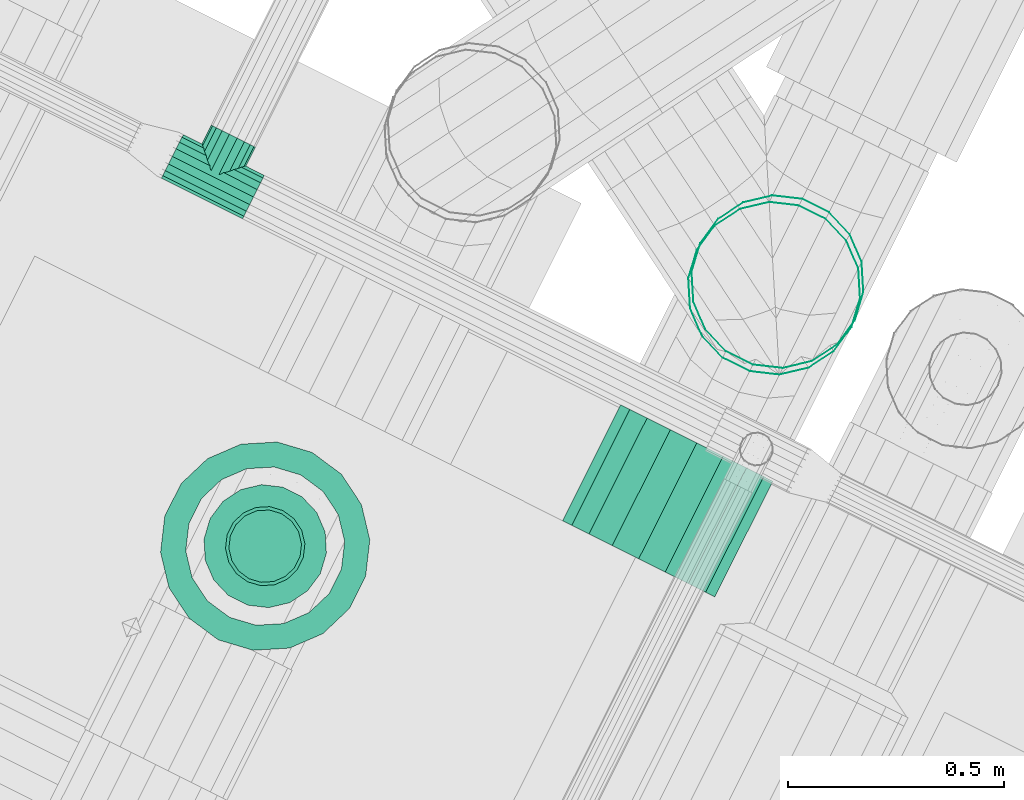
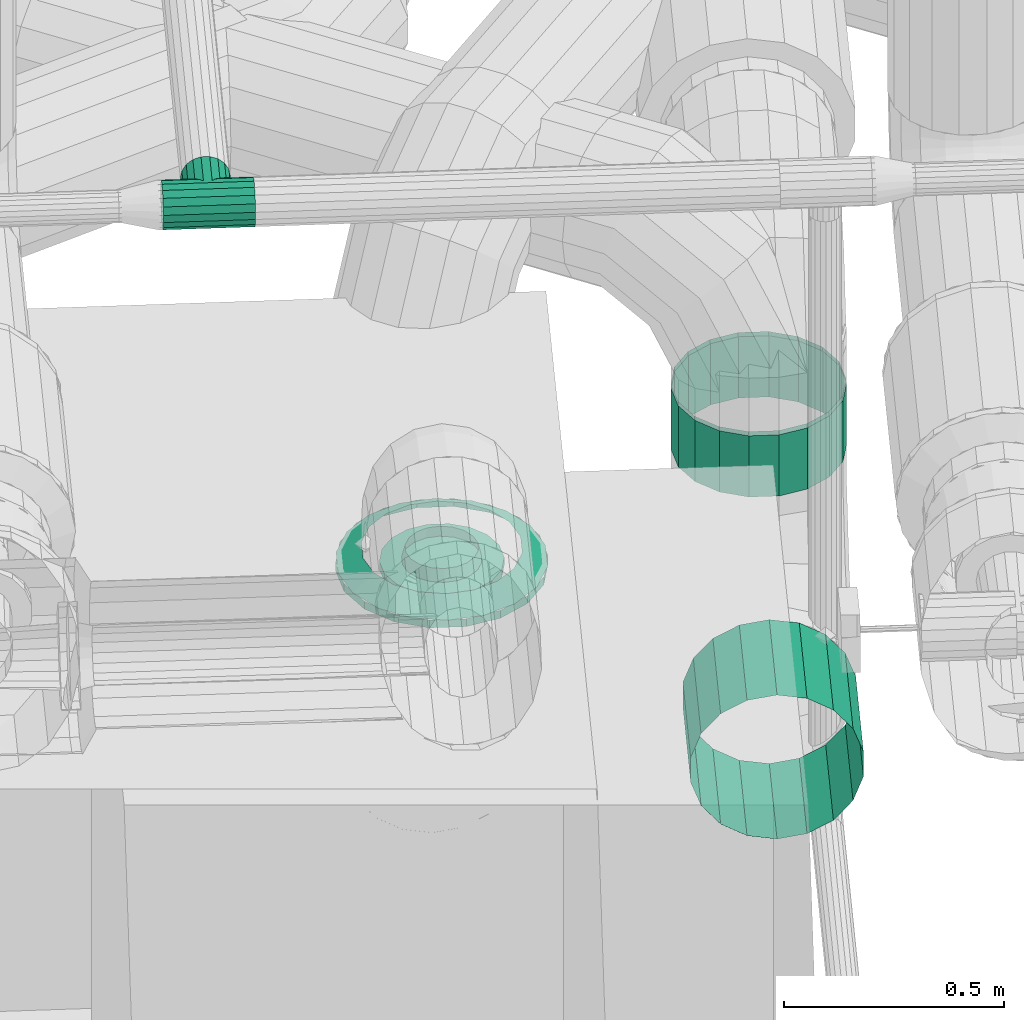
# One storey, part 129 of 206: 4 flow segments, 2 flow fittings.
"""IFC2X3 building model written with IfcOpenShell, lengths in metres."""

import ifcopenshell
import ifcopenshell.guid

model = None  # the IFC model being written
_history = None  # IfcOwnerHistory: only IFC2X3 demands one
_inside = {}  # id of a spatial element -> (the spatial element, [elements in it])
_under = {}  # id of a project, library or spatial element -> (it, [spatial elements below it])
_declared = {}  # id of a project -> (the project, [libraries it declares])
_typed = {}  # id of a type object -> (the type object, [elements of that type])
_made_of = {}  # id of a material, layer set ... -> (it, [elements and type objects made of it])


def new_model(schema):
    """Start an empty IFC model of exactly this schema.

    Asked for "IFC4X3", IfcOpenShell would pick the latest addendum, in which some entities
    have other attributes; the version numbers below select the first issue.
    IFC2X3 requires an IfcOwnerHistory on every rooted entity: one is made here for all.
    """
    global model, _history
    if schema == "IFC4X3":
        model = ifcopenshell.file(schema_version=(4, 3, 0, 0))
    else:
        model = ifcopenshell.file(schema=schema)
    _inside.clear()
    _under.clear()
    _declared.clear()
    _typed.clear()
    _made_of.clear()
    _history = None
    if model.schema == "IFC2X3":
        org = make("IfcOrganization", Name="unknown")
        user = make(
            "IfcPersonAndOrganization",
            ThePerson=make("IfcPerson", FamilyName="unknown"),
            TheOrganization=org,
        )
        app = make(
            "IfcApplication",
            ApplicationDeveloper=org,
            Version="unknown",
            ApplicationFullName="unknown",
            ApplicationIdentifier="unknown",
        )
        _history = make(
            "IfcOwnerHistory",
            OwningUser=user,
            OwningApplication=app,
            ChangeAction="ADDED",
            CreationDate=0,
        )
    return model


def make(cls, **values):
    """One entity of the class cls with the attributes given. An attribute that is None is left unset."""
    return model.create_entity(
        cls, **{name: value for name, value in values.items() if value is not None}
    )


def rooted(cls, **values):
    """An entity with a GlobalId (a new one), such as an element, a storey or a relation."""
    return make(cls, GlobalId=ifcopenshell.guid.new(), OwnerHistory=_history, **values)


def si_unit(unit_type, name, prefix=None):
    """IfcSIUnit, for example si_unit("LENGTHUNIT", "METRE", prefix="MILLI")."""
    return make("IfcSIUnit", UnitType=unit_type, Prefix=prefix, Name=name)


def derived_unit(unit_type, elements):
    """IfcDerivedUnit: a product of units, each with its exponent."""
    return make(
        "IfcDerivedUnit",
        Elements=[
            make("IfcDerivedUnitElement", Unit=unit, Exponent=power)
            for unit, power in elements
        ],
        UnitType=unit_type,
    )


def assignment(units):
    """IfcUnitAssignment: the units of a project."""
    return None if units is None else make("IfcUnitAssignment", Units=units)


def point(xyz):
    """IfcCartesianPoint."""
    return None if xyz is None else make("IfcCartesianPoint", Coordinates=xyz)


def direction(xyz):
    """IfcDirection."""
    return None if xyz is None else make("IfcDirection", DirectionRatios=xyz)


def frame(location, z_axis=None, x_axis=None):
    """IfcAxis2Placement3D, a coordinate frame: its origin and axes. An axis left out is left unset."""
    return make(
        "IfcAxis2Placement3D",
        Location=point(location),
        Axis=direction(z_axis),
        RefDirection=direction(x_axis),
    )


def origin():
    """The frame at (0, 0, 0) with its axes left unset."""
    return frame((0.0, 0.0, 0.0))


def place(relative_to, where):
    """IfcLocalPlacement: puts the frame where relative to a parent placement (None: the world)."""
    return make(
        "IfcLocalPlacement", PlacementRelTo=relative_to, RelativePlacement=where
    )


def context(
    kind, dimensions, precision=None, world=None, true_north=None, identifier=None
):
    """IfcGeometricRepresentationContext, for example the 3D "Model" context."""
    return make(
        "IfcGeometricRepresentationContext",
        ContextIdentifier=identifier,
        ContextType=kind,
        CoordinateSpaceDimension=dimensions,
        Precision=precision,
        WorldCoordinateSystem=world,
        TrueNorth=true_north,
    )


def subcontext(parent, identifier, kind, view, scale=None):
    """IfcGeometricRepresentationSubContext, for example "Body" below "Model"."""
    return make(
        "IfcGeometricRepresentationSubContext",
        ContextIdentifier=identifier,
        ContextType=kind,
        ParentContext=parent,
        TargetScale=scale,
        TargetView=view,
    )


def project(units=None, contexts=None):
    """IfcProject with its units and contexts."""
    return rooted(
        "IfcProject",
        Name="project",
        RepresentationContexts=contexts,
        UnitsInContext=assignment(units),
    )


def spatial(cls, under=None, at=None, **own):
    """A site, building, storey or space (cls), placed at a placement, below another one or the project."""
    s = rooted(cls, ObjectPlacement=at, **own)
    if under is not None:
        _under.setdefault(under.id(), (under, []))[1].append(s)
    return s


def faces_of(points, faces, orient=None, outer=None):
    """IfcFace entities. A face is a list of loops; a loop is a list of indices into points, from 0.

    orient and outer hold one flag for each loop. By default every Orientation is true, the
    first loop of a face is its IfcFaceOuterBound and the others are IfcFaceBound.
    """
    made = []
    for i, loops in enumerate(faces):
        bounds = []
        for j, loop in enumerate(loops):
            is_outer = j == 0 if outer is None else outer[i][j]
            bounds.append(
                make(
                    "IfcFaceOuterBound" if is_outer else "IfcFaceBound",
                    Bound=make("IfcPolyLoop", Polygon=[points[k] for k in loop]),
                    Orientation=True if orient is None else orient[i][j],
                )
            )
        made.append(make("IfcFace", Bounds=bounds))
    return made


def face_set(faces, orient=None, outer=None):
    """The faces of one IfcConnectedFaceSet. surface_model builds it on its shared points."""
    return ("IfcConnectedFaceSet", faces, orient, outer)


def surface_model(cls, points, shells):
    """IfcFaceBasedSurfaceModel or IfcShellBasedSurfaceModel (cls): surfaces that need not close."""
    shared = [point(p) for p in points]
    made = [make(c, CfsFaces=faces_of(shared, fs, o, b)) for c, fs, o, b in shells]
    if cls == "IfcFaceBasedSurfaceModel":
        return make(cls, FbsmFaces=made)
    return make(cls, SbsmBoundary=made)


def shape(context_of_items, identifier, shape_type, items):
    """IfcShapeRepresentation: the items that make up one representation, for example the "Body"."""
    return make(
        "IfcShapeRepresentation",
        ContextOfItems=context_of_items,
        RepresentationIdentifier=identifier,
        RepresentationType=shape_type,
        Items=items,
    )


def source(mapping_origin, context_of_items, identifier, shape_type, items):
    """IfcRepresentationMap: a shape defined once, which mapped items show again and again."""
    return make(
        "IfcRepresentationMap",
        MappingOrigin=mapping_origin,
        MappedRepresentation=shape(context_of_items, identifier, shape_type, items),
    )


def transform(
    local_origin,
    x_axis=None,
    y_axis=None,
    z_axis=None,
    scale=None,
    scale2=None,
    scale3=None,
    uniform=True,
):
    """IfcCartesianTransformationOperator3D, or its non-uniform kind. x_axis, y_axis, z_axis: its Axis1, 2, 3."""
    if uniform:
        return make(
            "IfcCartesianTransformationOperator3D",
            Axis1=direction(x_axis),
            Axis2=direction(y_axis),
            LocalOrigin=point(local_origin),
            Scale=scale,
            Axis3=direction(z_axis),
        )
    return make(
        "IfcCartesianTransformationOperator3DnonUniform",
        Axis1=direction(x_axis),
        Axis2=direction(y_axis),
        LocalOrigin=point(local_origin),
        Scale=scale,
        Axis3=direction(z_axis),
        Scale2=scale2,
        Scale3=scale3,
    )


def mapped(mapping_source, mapping_target):
    """IfcMappedItem: shows the shape of a source again, moved by a transform."""
    return make(
        "IfcMappedItem", MappingSource=mapping_source, MappingTarget=mapping_target
    )


def material(Name=None, Category=None):
    """IfcMaterial."""
    return make("IfcMaterial", Name=Name, Category=Category)


def made_of(thing, what):
    """Note that an element or type object is made of a material, layer set ...; save() writes the relation."""
    if what is not None:
        _made_of.setdefault(what.id(), (what, []))[1].append(thing)
    return thing


def type_object(cls, material=None, **own):
    """A type object (cls), such as IfcWallType, which elements share."""
    return made_of(rooted(cls, **own), material)


def type_shapes(of_type, sources):
    """Give a type object the sources (RepresentationMaps) that its elements show as mapped items."""
    of_type.RepresentationMaps = sources


def element(
    cls,
    number,
    at=None,
    inside=None,
    cuts=None,
    type_object=None,
    material=None,
    context=None,
    identifier="Body",
    shape_type=None,
    held_by="IfcProductDefinitionShape",
    body=None,
    shapes=None,
    **own,
):
    """One element of the class cls, such as IfcWall. Its Tag is "e" and its number.

    at: its placement. inside: the storey or other place that contains it. cuts: it is an
    opening in that element (IfcRelVoidsElement). A single representation is given by context,
    identifier, shape_type and body (its items); several are given by shapes. held_by: the class
    of the entity that holds the representations. save() writes the other relations.
    """
    e = rooted(cls, Tag="e%d" % number, ObjectPlacement=at, **own)
    if body is not None:
        shapes = [shape(context, identifier, shape_type, body)]
    if shapes is not None:
        e.Representation = make(held_by, Representations=shapes)
    if inside is not None:
        _inside.setdefault(inside.id(), (inside, []))[1].append(e)
    if cuts is not None:
        rooted(
            "IfcRelVoidsElement", RelatingBuildingElement=cuts, RelatedOpeningElement=e
        )
    if type_object is not None:
        _typed.setdefault(type_object.id(), (type_object, []))[1].append(e)
    return made_of(e, material)


def aggregate(whole, parts):
    """IfcRelAggregates: a whole, such as a stair, and the parts it consists of."""
    return rooted("IfcRelAggregates", RelatingObject=whole, RelatedObjects=parts)


def save(model, path):
    """Write the relations noted so far, then the file.

    IfcRelAggregates (storeys below a building ...), IfcRelContainedInSpatialStructure (elements
    in a storey), IfcRelDefinesByType, IfcRelAssociatesMaterial and IfcRelDeclares: one each for
    every whole, place, type object, material and project.
    """
    for whole, parts in _under.values():
        aggregate(whole, parts)
    for where, things in _inside.values():
        rooted(
            "IfcRelContainedInSpatialStructure",
            RelatedElements=things,
            RelatingStructure=where,
        )
    for kind, things in _typed.values():
        rooted("IfcRelDefinesByType", RelatedObjects=things, RelatingType=kind)
    for what, things in _made_of.values():
        rooted("IfcRelAssociatesMaterial", RelatedObjects=things, RelatingMaterial=what)
    for by, libraries in _declared.values():
        rooted("IfcRelDeclares", RelatingContext=by, RelatedDefinitions=libraries)
    model.write(path)


model = new_model("IFC2X3")

# Units and contexts
model_context = context("Model", 3, precision=5.2338327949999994e-05, world=origin(), true_north=direction((0.0, 1.0)))
body_context = subcontext(model_context, "Body", "Model", "MODEL_VIEW")
ifc_project = project(units=[si_unit("LENGTHUNIT", "METRE"), si_unit("AREAUNIT", "SQUARE_METRE"), si_unit("VOLUMEUNIT", "CUBIC_METRE"), si_unit("MASSUNIT", "GRAM", prefix="KILO"), si_unit("PLANEANGLEUNIT", "RADIAN"), derived_unit("THERMALTRANSMITTANCEUNIT", [(si_unit("MASSUNIT", "GRAM", prefix="KILO"), 1), (si_unit("THERMODYNAMICTEMPERATUREUNIT", "KELVIN"), -1), (si_unit("TIMEUNIT", "SECOND"), -3)])], contexts=[model_context])

# Site, building, storey
site_placement = place(None, frame((0.0, 0.0, 0.0), z_axis=(0.0, 0.0, 1.0), x_axis=(0.8939966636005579, -0.4480736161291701, 0.0)))
site = spatial("IfcSite", under=ifc_project, at=site_placement, Name="Default", CompositionType="ELEMENT")
building_placement = place(site_placement, origin())
building = spatial("IfcBuilding", under=site, at=building_placement, CompositionType="ELEMENT")
storey_placement = place(building_placement, origin())
storey = spatial("IfcBuildingStorey", under=building, at=storey_placement, Name="Erdgeschoss", CompositionType="ELEMENT", Elevation=0.0)

# Flow segments
ifc_material_1 = material(Name="IfcSurfaceStyle #251447")
distribution_element_type_1 = type_object("IfcDistributionElementType", material=ifc_material_1)
shared_shape_1 = source(origin(), body_context, "Body", "SurfaceModel", [
    surface_model("IfcFaceBasedSurfaceModel", [(24.96050898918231, 7.728208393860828, 1.4300000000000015), (25.02891301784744, 7.728208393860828, 1.4179385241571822), (25.02891301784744, 8.028208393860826, 1.417938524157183), (24.960508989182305, 8.028208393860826, 1.4300000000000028), (25.08906651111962, 7.728208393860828, 1.3832088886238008), (25.089066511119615, 8.028208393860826, 1.3832088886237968), (25.133714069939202, 7.728208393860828, 1.3299999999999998), (25.13371406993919, 8.028208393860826, 1.329999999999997), (25.157470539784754, 7.728208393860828, 1.2647296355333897), (25.157470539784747, 8.028208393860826, 1.2647296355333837), (25.15747053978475, 7.728208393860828, 1.1952703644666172), (25.157470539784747, 8.028208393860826, 1.1952703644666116), (25.133714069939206, 7.728208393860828, 1.1300000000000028), (25.13371406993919, 8.028208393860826, 1.1299999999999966), (25.089066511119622, 7.728208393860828, 1.0767911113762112), (25.089066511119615, 8.028208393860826, 1.0767911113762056), (25.028913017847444, 7.728208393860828, 1.0420614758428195), (25.02891301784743, 8.028208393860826, 1.0420614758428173), (24.960508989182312, 7.728208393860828, 1.0299999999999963), (24.960508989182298, 8.028208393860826, 1.0299999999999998), (24.892104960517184, 7.728208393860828, 1.0420614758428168), (24.892104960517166, 8.028208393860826, 1.0420614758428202), (24.831951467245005, 7.728208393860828, 1.076791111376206), (24.83195146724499, 8.028208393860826, 1.0767911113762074), (24.787303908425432, 7.728208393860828, 1.129999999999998), (24.787303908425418, 8.028208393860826, 1.1300000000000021), (24.763547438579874, 7.728208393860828, 1.19527036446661), (24.763547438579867, 8.028208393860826, 1.1952703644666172), (24.76354743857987, 7.728208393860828, 1.2647296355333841), (24.763547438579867, 8.028208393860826, 1.2647296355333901), (24.78730390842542, 7.728208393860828, 1.3299999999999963), (24.787303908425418, 8.028208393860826, 1.3300000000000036), (24.831951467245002, 7.728208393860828, 1.383208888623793), (24.83195146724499, 8.028208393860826, 1.3832088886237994), (24.892104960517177, 7.728208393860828, 1.417938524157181), (24.892104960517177, 8.028208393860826, 1.4179385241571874)], [face_set([[[0, 1, 2, 3]], [[1, 4, 5, 2]], [[4, 6, 7, 5]], [[6, 8, 9, 7]], [[8, 10, 11, 9]], [[10, 12, 13, 11]], [[12, 14, 15, 13]], [[14, 16, 17, 15]], [[16, 18, 19, 17]], [[18, 20, 21, 19]], [[20, 22, 23, 21]], [[22, 24, 25, 23]], [[24, 26, 27, 25]], [[26, 28, 29, 27]], [[28, 30, 31, 29]], [[30, 32, 33, 31]], [[32, 34, 35, 33]], [[34, 0, 3, 35]]])]),
])
type_shapes(distribution_element_type_1, [shared_shape_1])
flow_segment_1_placement = place(storey_placement, origin())
element("IfcFlowSegment", 1, at=flow_segment_1_placement, inside=storey, type_object=distribution_element_type_1, material=ifc_material_1, Name="Wickelfalzrohr", ObjectType="Wickelfalzrohr", context=body_context, shape_type="MappedRepresentation", body=[
    mapped(shared_shape_1, transform((0.0, 0.0, 0.0), scale=1.0)),
])
distribution_element_type_2 = type_object("IfcDistributionElementType", Name="Wickelfalzrohr 285008:Wickelfalzrohr 285008", material=ifc_material_1)
shared_shape_2 = source(origin(), body_context, "Body", "SurfaceModel", [
    surface_model("IfcFaceBasedSurfaceModel", [(25.1605089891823, 8.428208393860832, 1.6300000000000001), (25.148447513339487, 8.496612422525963, 1.6300000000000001), (25.148447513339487, 8.496612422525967, 1.7999999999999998), (25.1605089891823, 8.428208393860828, 1.7999999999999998), (25.11371787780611, 8.556765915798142, 1.6300000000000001), (25.1137178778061, 8.556765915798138, 1.7999999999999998), (25.060508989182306, 8.601413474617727, 1.6300000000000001), (25.060508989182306, 8.60141347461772, 1.7999999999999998), (24.995238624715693, 8.62516994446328, 1.6300000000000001), (24.99523862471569, 8.625169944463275, 1.7999999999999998), (24.92577935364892, 8.625169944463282, 1.6300000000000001), (24.92577935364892, 8.625169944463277, 1.7999999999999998), (24.860508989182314, 8.601413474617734, 1.6300000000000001), (24.860508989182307, 8.601413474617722, 1.7999999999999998), (24.807300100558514, 8.556765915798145, 1.6300000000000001), (24.80730010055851, 8.55676591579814, 1.7999999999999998), (24.772570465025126, 8.496612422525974, 1.6300000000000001), (24.772570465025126, 8.496612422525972, 1.7999999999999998), (24.760508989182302, 8.428208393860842, 1.6300000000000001), (24.76050898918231, 8.428208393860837, 1.7999999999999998), (24.77257046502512, 8.35980436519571, 1.6300000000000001), (24.772570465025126, 8.359804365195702, 1.7999999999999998), (24.807300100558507, 8.299650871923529, 1.6300000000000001), (24.807300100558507, 8.299650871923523, 1.7999999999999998), (24.860508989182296, 8.255003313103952, 1.6300000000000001), (24.8605089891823, 8.255003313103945, 1.7999999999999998), (24.925779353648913, 8.231246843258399, 1.6300000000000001), (24.925779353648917, 8.23124684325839, 1.7999999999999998), (24.99523862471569, 8.231246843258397, 1.6300000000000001), (24.995238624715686, 8.23124684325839, 1.7999999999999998), (25.0605089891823, 8.255003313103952, 1.6300000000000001), (25.0605089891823, 8.255003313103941, 1.7999999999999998), (25.113717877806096, 8.299650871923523, 1.6300000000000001), (25.113717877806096, 8.29965087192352, 1.7999999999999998), (25.148447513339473, 8.359804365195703, 1.6300000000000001), (25.14844751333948, 8.3598043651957, 1.7999999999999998)], [face_set([[[0, 1, 2, 3]], [[1, 4, 5, 2]], [[4, 6, 7, 5]], [[6, 8, 9, 7]], [[8, 10, 11, 9]], [[10, 12, 13, 11]], [[12, 14, 15, 13]], [[14, 16, 17, 15]], [[16, 18, 19, 17]], [[18, 20, 21, 19]], [[20, 22, 23, 21]], [[22, 24, 25, 23]], [[24, 26, 27, 25]], [[26, 28, 29, 27]], [[28, 30, 31, 29]], [[30, 32, 33, 31]], [[32, 34, 35, 33]], [[34, 0, 3, 35]]])]),
])
type_shapes(distribution_element_type_2, [shared_shape_2])
flow_segment_2_placement = place(storey_placement, origin())
element("IfcFlowSegment", 2, at=flow_segment_2_placement, inside=storey, type_object=distribution_element_type_2, material=ifc_material_1, Name="Wickelfalzrohr", ObjectType="Wickelfalzrohr", context=body_context, shape_type="MappedRepresentation", body=[
    mapped(shared_shape_2, transform((0.0, 0.0, 0.0), scale=1.0)),
])
distribution_element_type_3 = type_object("IfcDistributionElementType", material=ifc_material_1)
shared_shape_3 = source(origin(), body_context, "Body", "SurfaceModel", [
    surface_model("IfcFaceBasedSurfaceModel", [(24.96050898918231, 7.728208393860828, 1.4300000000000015), (25.02891301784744, 7.728208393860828, 1.4179385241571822), (25.02891301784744, 8.028208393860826, 1.417938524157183), (24.960508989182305, 8.028208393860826, 1.4300000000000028), (25.08906651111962, 7.728208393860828, 1.3832088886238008), (25.089066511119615, 8.028208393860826, 1.3832088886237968), (25.133714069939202, 7.728208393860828, 1.3299999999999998), (25.13371406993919, 8.028208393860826, 1.329999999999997), (25.157470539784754, 7.728208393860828, 1.2647296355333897), (25.157470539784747, 8.028208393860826, 1.2647296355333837), (25.15747053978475, 7.728208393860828, 1.1952703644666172), (25.157470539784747, 8.028208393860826, 1.1952703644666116), (25.133714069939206, 7.728208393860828, 1.1300000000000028), (25.13371406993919, 8.028208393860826, 1.1299999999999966), (25.089066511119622, 7.728208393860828, 1.0767911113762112), (25.089066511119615, 8.028208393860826, 1.0767911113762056), (25.028913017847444, 7.728208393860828, 1.0420614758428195), (25.02891301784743, 8.028208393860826, 1.0420614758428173), (24.960508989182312, 7.728208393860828, 1.0299999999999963), (24.960508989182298, 8.028208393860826, 1.0299999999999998), (24.892104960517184, 7.728208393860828, 1.0420614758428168), (24.892104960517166, 8.028208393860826, 1.0420614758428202), (24.831951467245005, 7.728208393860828, 1.076791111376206), (24.83195146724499, 8.028208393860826, 1.0767911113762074), (24.787303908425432, 7.728208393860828, 1.129999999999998), (24.787303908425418, 8.028208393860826, 1.1300000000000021), (24.763547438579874, 7.728208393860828, 1.19527036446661), (24.763547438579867, 8.028208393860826, 1.1952703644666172), (24.76354743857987, 7.728208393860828, 1.2647296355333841), (24.763547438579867, 8.028208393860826, 1.2647296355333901), (24.78730390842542, 7.728208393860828, 1.3299999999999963), (24.787303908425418, 8.028208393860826, 1.3300000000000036), (24.831951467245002, 7.728208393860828, 1.383208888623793), (24.83195146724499, 8.028208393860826, 1.3832088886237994), (24.892104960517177, 7.728208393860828, 1.417938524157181), (24.892104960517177, 8.028208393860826, 1.4179385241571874)], [face_set([[[0, 1, 2, 3]], [[1, 4, 5, 2]], [[4, 6, 7, 5]], [[6, 8, 9, 7]], [[8, 10, 11, 9]], [[10, 12, 13, 11]], [[12, 14, 15, 13]], [[14, 16, 17, 15]], [[16, 18, 19, 17]], [[18, 20, 21, 19]], [[20, 22, 23, 21]], [[22, 24, 25, 23]], [[24, 26, 27, 25]], [[26, 28, 29, 27]], [[28, 30, 31, 29]], [[30, 32, 33, 31]], [[32, 34, 35, 33]], [[34, 0, 3, 35]]])]),
])
type_shapes(distribution_element_type_3, [shared_shape_3])
flow_segment_3_placement = place(storey_placement, origin())
element("IfcFlowSegment", 3, at=flow_segment_3_placement, inside=storey, type_object=distribution_element_type_3, material=ifc_material_1, Name="Wickelfalzrohr", ObjectType="Wickelfalzrohr", context=body_context, shape_type="MappedRepresentation", body=[
    mapped(shared_shape_3, transform((0.0, 0.0, 0.0), scale=1.0)),
])
distribution_element_type_4 = type_object("IfcDistributionElementType", Name="Wickelfalzrohr 295334:Wickelfalzrohr 295334", material=ifc_material_1)
shared_shape_4 = source(origin(), body_context, "Body", "SurfaceModel", [
    surface_model("IfcFaceBasedSurfaceModel", [(25.1605089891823, 8.445275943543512, 1.6300000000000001), (25.148447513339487, 8.513679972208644, 1.6300000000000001), (25.148447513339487, 8.513679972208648, 1.7999999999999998), (25.1605089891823, 8.445275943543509, 1.7999999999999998), (25.11371787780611, 8.573833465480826, 1.6300000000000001), (25.1137178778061, 8.57383346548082, 1.7999999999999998), (25.060508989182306, 8.618481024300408, 1.6300000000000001), (25.060508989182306, 8.618481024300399, 1.7999999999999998), (24.995238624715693, 8.642237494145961, 1.6300000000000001), (24.99523862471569, 8.642237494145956, 1.7999999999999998), (24.92577935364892, 8.642237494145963, 1.6300000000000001), (24.92577935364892, 8.642237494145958, 1.7999999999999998), (24.860508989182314, 8.618481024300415, 1.6300000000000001), (24.860508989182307, 8.618481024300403, 1.7999999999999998), (24.807300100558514, 8.573833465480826, 1.6300000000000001), (24.80730010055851, 8.57383346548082, 1.7999999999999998), (24.772570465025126, 8.513679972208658, 1.6300000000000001), (24.772570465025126, 8.513679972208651, 1.7999999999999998), (24.760508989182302, 8.445275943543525, 1.6300000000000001), (24.76050898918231, 8.445275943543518, 1.7999999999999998), (24.77257046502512, 8.376871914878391, 1.6300000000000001), (24.772570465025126, 8.376871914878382, 1.7999999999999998), (24.807300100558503, 8.316718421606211, 1.6300000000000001), (24.807300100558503, 8.31671842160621, 1.7999999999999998), (24.8605089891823, 8.272070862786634, 1.6300000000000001), (24.860508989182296, 8.272070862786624, 1.7999999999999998), (24.925779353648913, 8.248314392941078, 1.6300000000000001), (24.925779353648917, 8.248314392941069, 1.7999999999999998), (24.99523862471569, 8.248314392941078, 1.6300000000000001), (24.995238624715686, 8.24831439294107, 1.7999999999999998), (25.0605089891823, 8.272070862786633, 1.6300000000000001), (25.0605089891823, 8.272070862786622, 1.7999999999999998), (25.113717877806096, 8.316718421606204, 1.6300000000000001), (25.113717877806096, 8.3167184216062, 1.7999999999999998), (25.148447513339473, 8.376871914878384, 1.6300000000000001), (25.14844751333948, 8.37687191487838, 1.7999999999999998)], [face_set([[[0, 1, 2, 3]], [[1, 4, 5, 2]], [[4, 6, 7, 5]], [[6, 8, 9, 7]], [[8, 10, 11, 9]], [[10, 12, 13, 11]], [[12, 14, 15, 13]], [[14, 16, 17, 15]], [[16, 18, 19, 17]], [[18, 20, 21, 19]], [[20, 22, 23, 21]], [[22, 24, 25, 23]], [[24, 26, 27, 25]], [[26, 28, 29, 27]], [[28, 30, 31, 29]], [[30, 32, 33, 31]], [[32, 34, 35, 33]], [[34, 0, 3, 35]]])]),
])
type_shapes(distribution_element_type_4, [shared_shape_4])
flow_segment_4_placement = place(storey_placement, origin())
element("IfcFlowSegment", 4, at=flow_segment_4_placement, inside=storey, type_object=distribution_element_type_4, material=ifc_material_1, Name="Wickelfalzrohr", ObjectType="Wickelfalzrohr", context=body_context, shape_type="MappedRepresentation", body=[
    mapped(shared_shape_4, transform((0.0, 0.0, 0.0), scale=1.0)),
])

# Flow fittings
ifc_material_2 = material(Name="IfcSurfaceStyle #9317")
distribution_element_type_5 = type_object("IfcDistributionElementType", material=ifc_material_2)
shared_shape_5 = source(origin(), body_context, "Body", "SurfaceModel", [
    surface_model("IfcFaceBasedSurfaceModel", [(24.032321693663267, 7.367307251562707, 2.07), (24.040915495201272, 7.3185693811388, 2.07), (24.040915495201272, 7.3185693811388, 2.0919999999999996), (24.032321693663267, 7.367307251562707, 2.0919999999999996), (24.065660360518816, 7.275710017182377, 2.07), (24.065660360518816, 7.275710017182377, 2.0919999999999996), (24.103571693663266, 7.243898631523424, 2.07), (24.103571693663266, 7.243898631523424, 2.0919999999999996), (24.15007682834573, 7.226972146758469, 2.07), (24.15007682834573, 7.226972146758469, 2.0919999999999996), (24.199566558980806, 7.226972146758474, 2.07), (24.199566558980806, 7.226972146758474, 2.0919999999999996), (24.246071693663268, 7.243898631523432, 2.07), (24.246071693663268, 7.243898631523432, 2.0919999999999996), (24.283983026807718, 7.275710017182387, 2.07), (24.283983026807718, 7.275710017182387, 2.0919999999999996), (24.30872789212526, 7.3185693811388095, 2.07), (24.30872789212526, 7.3185693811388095, 2.0919999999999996), (24.317321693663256, 7.36730725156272, 2.07), (24.317321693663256, 7.36730725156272, 2.0919999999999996), (24.30872789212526, 7.4160451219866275, 2.07), (24.30872789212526, 7.4160451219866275, 2.0919999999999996), (24.283983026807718, 7.458904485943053, 2.07), (24.283983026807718, 7.458904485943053, 2.0919999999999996), (24.246071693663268, 7.490715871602, 2.07), (24.246071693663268, 7.490715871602, 2.0919999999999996), (24.199566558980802, 7.507642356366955, 2.07), (24.199566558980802, 7.507642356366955, 2.0919999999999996), (24.15007682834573, 7.507642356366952, 2.07), (24.15007682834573, 7.507642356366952, 2.0919999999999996), (24.103571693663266, 7.490715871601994, 2.07), (24.103571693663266, 7.490715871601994, 2.0919999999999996), (24.065660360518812, 7.458904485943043, 2.07), (24.065660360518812, 7.458904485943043, 2.0919999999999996), (24.04091549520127, 7.416045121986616, 2.07), (24.04091549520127, 7.416045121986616, 2.0919999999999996), (24.17482169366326, 7.367307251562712, 2.091999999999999), (24.17482169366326, 7.275307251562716, 2.0919999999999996), (24.206287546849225, 7.280855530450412, 2.0919999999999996), (24.20360268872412, 7.28823211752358, 2.125), (24.17482169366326, 7.283157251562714, 2.1249999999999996), (24.23395815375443, 7.29683116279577, 2.0919999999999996), (24.228912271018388, 7.302844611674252, 2.125), (24.25449603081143, 7.321307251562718, 2.091999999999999), (24.247697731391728, 7.325232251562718, 2.1249999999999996), (24.265424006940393, 7.351331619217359, 2.0920000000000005), (24.257693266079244, 7.352694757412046, 2.125000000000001), (24.265424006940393, 7.383282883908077, 2.091999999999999), (24.257693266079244, 7.381919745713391, 2.1249999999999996), (24.25449603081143, 7.41330725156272, 2.0919999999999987), (24.247697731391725, 7.409382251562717, 2.124999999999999), (24.23395815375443, 7.437783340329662, 2.0920000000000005), (24.228912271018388, 7.431769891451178, 2.125000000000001), (24.206287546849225, 7.453758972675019, 2.0919999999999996), (24.20360268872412, 7.446382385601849, 2.125), (24.17482169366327, 7.459307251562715, 2.0919999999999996), (24.17482169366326, 7.451457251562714, 2.125), (24.143355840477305, 7.453758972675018, 2.0919999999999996), (24.14604069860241, 7.446382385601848, 2.125), (24.1156852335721, 7.437783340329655, 2.0919999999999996), (24.120731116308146, 7.4317698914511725, 2.125), (24.095147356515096, 7.41330725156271, 2.0919999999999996), (24.101945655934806, 7.409382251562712, 2.125), (24.084219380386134, 7.383282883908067, 2.091999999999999), (24.091950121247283, 7.3819197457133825, 2.1249999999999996), (24.084219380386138, 7.351331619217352, 2.091999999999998), (24.091950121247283, 7.3526947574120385, 2.1249999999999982), (24.095147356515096, 7.3213072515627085, 2.0919999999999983), (24.101945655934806, 7.325232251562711, 2.1249999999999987), (24.1156852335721, 7.2968311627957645, 2.0919999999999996), (24.120731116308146, 7.302844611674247, 2.125), (24.143355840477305, 7.280855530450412, 2.091999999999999), (24.146040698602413, 7.288232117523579, 2.1249999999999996), (23.932321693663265, 7.3673072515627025, 2.07), (23.94694623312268, 7.284367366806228, 2.07), (23.94694623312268, 7.284367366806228, 2.0919999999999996), (23.932321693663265, 7.367307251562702, 2.0919999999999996), (23.989055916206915, 7.211431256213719, 2.07), (23.989055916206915, 7.211431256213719, 2.0919999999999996), (24.05357169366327, 7.157296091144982, 2.07), (24.05357169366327, 7.157296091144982, 2.0919999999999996), (24.132712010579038, 7.128491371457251, 2.07), (24.132712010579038, 7.128491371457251, 2.0919999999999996), (24.216931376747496, 7.128491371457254, 2.07), (24.216931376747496, 7.128491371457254, 2.0919999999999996), (24.29607169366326, 7.157296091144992, 2.07), (24.29607169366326, 7.157296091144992, 2.0919999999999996), (24.36058747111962, 7.211431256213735, 2.07), (24.36058747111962, 7.211431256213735, 2.0919999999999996), (24.40269715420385, 7.284367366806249, 2.07), (24.40269715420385, 7.284367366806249, 2.0919999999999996), (24.417321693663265, 7.3673072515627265, 2.07), (24.417321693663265, 7.3673072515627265, 2.0919999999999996), (24.40269715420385, 7.4502471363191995, 2.07), (24.40269715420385, 7.4502471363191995, 2.0919999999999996), (24.36058747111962, 7.523183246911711, 2.07), (24.36058747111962, 7.523183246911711, 2.0919999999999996), (24.29607169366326, 7.577318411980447, 2.07), (24.29607169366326, 7.577318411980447, 2.0919999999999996), (24.216931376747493, 7.606123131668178, 2.07), (24.216931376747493, 7.606123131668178, 2.0919999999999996), (24.132712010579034, 7.606123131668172, 2.07), (24.132712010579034, 7.606123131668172, 2.0919999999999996), (24.053571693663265, 7.577318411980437, 2.07), (24.053571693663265, 7.577318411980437, 2.0919999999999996), (23.98905591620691, 7.523183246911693, 2.07), (23.98905591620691, 7.523183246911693, 2.0919999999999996), (23.94694623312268, 7.450247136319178, 2.07), (23.94694623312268, 7.450247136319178, 2.0919999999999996), (24.17482169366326, 7.124807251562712, 2.0919999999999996), (24.257761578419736, 7.139431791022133, 2.0919999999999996), (24.23780470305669, 7.1942628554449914, 2.125), (24.17482169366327, 7.1831572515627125, 2.1249999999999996), (24.33069768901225, 7.181541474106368, 2.0919999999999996), (24.29319103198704, 7.226240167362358, 2.125), (24.38483285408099, 7.246057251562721, 2.0920000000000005), (24.334300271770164, 7.275232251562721, 2.125000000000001), (24.413637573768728, 7.325197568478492, 2.092), (24.356174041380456, 7.335329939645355, 2.1250000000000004), (24.41363757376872, 7.409416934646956, 2.0919999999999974), (24.356174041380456, 7.399284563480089, 2.124999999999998), (24.38483285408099, 7.488557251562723, 2.092), (24.334300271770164, 7.459382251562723, 2.1250000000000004), (24.33069768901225, 7.5530730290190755, 2.092), (24.29319103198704, 7.508374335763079, 2.1250000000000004), (24.257761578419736, 7.5951827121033, 2.091999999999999), (24.237804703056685, 7.540351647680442, 2.1249999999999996), (24.17482169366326, 7.609807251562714, 2.0919999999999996), (24.17482169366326, 7.551457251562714, 2.125), (24.091881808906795, 7.595182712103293, 2.092), (24.111838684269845, 7.540351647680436, 2.1250000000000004), (24.01894569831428, 7.55307302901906, 2.0919999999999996), (24.056452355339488, 7.508374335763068, 2.125), (23.96481053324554, 7.488557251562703, 2.091999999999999), (24.015343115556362, 7.459382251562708, 2.1249999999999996), (23.936005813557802, 7.4094169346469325, 2.0919999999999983), (23.993469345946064, 7.39928456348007, 2.1249999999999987), (23.936005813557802, 7.325197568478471, 2.0919999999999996), (23.993469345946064, 7.335329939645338, 2.125), (23.96481053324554, 7.246057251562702, 2.091999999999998), (24.015343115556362, 7.275232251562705, 2.1249999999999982), (24.018945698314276, 7.181541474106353, 2.0919999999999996), (24.05645235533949, 7.226240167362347, 2.125), (24.091881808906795, 7.1394317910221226, 2.0919999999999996), (24.111838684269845, 7.194262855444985, 2.125)], [face_set([[[0, 1, 2, 3]], [[1, 4, 5, 2]], [[4, 6, 7, 5]], [[6, 8, 9, 7]], [[8, 10, 11, 9]], [[10, 12, 13, 11]], [[12, 14, 15, 13]], [[14, 16, 17, 15]], [[16, 18, 19, 17]], [[18, 20, 21, 19]], [[20, 22, 23, 21]], [[22, 24, 25, 23]], [[24, 26, 27, 25]], [[26, 28, 29, 27]], [[28, 30, 31, 29]], [[30, 32, 33, 31]], [[32, 34, 35, 33]], [[34, 0, 3, 35]], [[36, 35, 3]], [[36, 33, 35]], [[36, 31, 33]], [[36, 29, 31]], [[36, 27, 29]], [[36, 25, 27]], [[36, 23, 25]], [[36, 21, 23]], [[36, 19, 21]], [[36, 17, 19]], [[36, 15, 17]], [[36, 13, 15]], [[36, 11, 13]], [[36, 9, 11]], [[36, 7, 9]], [[36, 5, 7]], [[36, 2, 5]], [[36, 3, 2]], [[37, 38, 39, 40]], [[38, 41, 42, 39]], [[41, 43, 44, 42]], [[43, 45, 46, 44]], [[45, 47, 48, 46]], [[47, 49, 50, 48]], [[49, 51, 52, 50]], [[51, 53, 54, 52]], [[53, 55, 56, 54]], [[55, 57, 58, 56]], [[57, 59, 60, 58]], [[59, 61, 62, 60]], [[61, 63, 64, 62]], [[63, 65, 66, 64]], [[65, 67, 68, 66]], [[67, 69, 70, 68]], [[69, 71, 72, 70]], [[71, 37, 40, 72]], [[73, 74, 75, 76]], [[74, 77, 78, 75]], [[77, 79, 80, 78]], [[79, 81, 82, 80]], [[81, 83, 84, 82]], [[83, 85, 86, 84]], [[85, 87, 88, 86]], [[87, 89, 90, 88]], [[89, 91, 92, 90]], [[91, 93, 94, 92]], [[93, 95, 96, 94]], [[95, 97, 98, 96]], [[97, 99, 100, 98]], [[99, 101, 102, 100]], [[101, 103, 104, 102]], [[103, 105, 106, 104]], [[105, 107, 108, 106]], [[107, 73, 76, 108]], [[109, 110, 111, 112]], [[110, 113, 114, 111]], [[113, 115, 116, 114]], [[115, 117, 118, 116]], [[117, 119, 120, 118]], [[119, 121, 122, 120]], [[121, 123, 124, 122]], [[123, 125, 126, 124]], [[125, 127, 128, 126]], [[127, 129, 130, 128]], [[129, 131, 132, 130]], [[131, 133, 134, 132]], [[133, 135, 136, 134]], [[135, 137, 138, 136]], [[137, 139, 140, 138]], [[139, 141, 142, 140]], [[141, 143, 144, 142]], [[143, 109, 112, 144]]])]),
])
type_shapes(distribution_element_type_5, [shared_shape_5])
flow_fitting_1_placement = place(storey_placement, origin())
element("IfcFlowFitting", 5, at=flow_fitting_1_placement, inside=storey, type_object=distribution_element_type_5, material=ifc_material_2, Name="Flansch", ObjectType="Flansch", context=body_context, shape_type="MappedRepresentation", body=[
    mapped(shared_shape_5, transform((0.0, 0.0, 0.0), scale=1.0)),
])
ifc_material_3 = material(Name="IfcSurfaceStyle #352577")
distribution_element_type_6 = type_object("IfcDistributionElementType", Name="Abzweigstück 353086:Abzweigstück 353086", material=ifc_material_3)
shared_shape_6 = source(origin(), body_context, "Body", "SurfaceModel", [
    surface_model("IfcFaceBasedSurfaceModel", [(23.788830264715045, 8.077162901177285, 2.5480141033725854), (23.788830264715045, 8.057616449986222, 2.5514606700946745), (23.578830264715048, 8.057616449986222, 2.5514606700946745), (23.578830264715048, 8.077162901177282, 2.5480141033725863), (23.788830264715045, 8.040427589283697, 2.5613846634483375), (23.578830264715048, 8.040427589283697, 2.5613846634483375), (23.788830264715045, 8.027669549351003, 2.576589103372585), (23.578830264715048, 8.027669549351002, 2.576589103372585), (23.788830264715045, 8.020881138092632, 2.595240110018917), (23.578830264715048, 8.020881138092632, 2.595240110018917), (23.788830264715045, 8.020881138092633, 2.61508809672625), (23.578830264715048, 8.020881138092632, 2.6150880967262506), (23.788830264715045, 8.027669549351, 2.6337391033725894), (23.578830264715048, 8.027669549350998, 2.6337391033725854), (23.788830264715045, 8.040427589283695, 2.6489435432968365), (23.578830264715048, 8.040427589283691, 2.6489435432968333), (23.788830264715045, 8.057616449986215, 2.6588675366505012), (23.578830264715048, 8.057616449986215, 2.6588675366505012), (23.788830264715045, 8.077162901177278, 2.6623141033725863), (23.578830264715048, 8.077162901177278, 2.6623141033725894), (23.788830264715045, 8.09670935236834, 2.6588675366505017), (23.578830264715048, 8.09670935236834, 2.658867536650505), (23.788830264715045, 8.113898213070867, 2.648943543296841), (23.578830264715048, 8.113898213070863, 2.6489435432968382), (23.788830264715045, 8.12665625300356, 2.633739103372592), (23.578830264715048, 8.12665625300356, 2.6337391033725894), (23.788830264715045, 8.133444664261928, 2.6150880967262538), (23.578830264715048, 8.133444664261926, 2.6150880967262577), (23.788830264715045, 8.13344466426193, 2.5952401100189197), (23.578830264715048, 8.133444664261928, 2.5952401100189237), (23.788830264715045, 8.126656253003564, 2.576589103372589), (23.578830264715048, 8.126656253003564, 2.576589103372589), (23.788830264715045, 8.113898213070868, 2.561384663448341), (23.578830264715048, 8.113898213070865, 2.561384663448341), (23.788830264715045, 8.096709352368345, 2.5514606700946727), (23.578830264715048, 8.096709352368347, 2.5514606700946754), (23.62668026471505, 8.134312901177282, 2.605164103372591), (23.630126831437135, 8.130866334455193, 2.6247105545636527), (23.630126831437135, 8.182162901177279, 2.6247105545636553), (23.626680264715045, 8.18216290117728, 2.6051641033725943), (23.640050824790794, 8.120942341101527, 2.641899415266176), (23.640050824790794, 8.182162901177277, 2.641899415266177), (23.65525526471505, 8.105737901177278, 2.6546574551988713), (23.65525526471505, 8.182162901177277, 2.654657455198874), (23.67390627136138, 8.087086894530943, 2.6614458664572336), (23.67390627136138, 8.182162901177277, 2.661445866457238), (23.693754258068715, 8.087086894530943, 2.661445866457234), (23.693754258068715, 8.182162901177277, 2.6614458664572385), (23.71240526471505, 8.105737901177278, 2.6546574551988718), (23.71240526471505, 8.182162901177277, 2.654657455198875), (23.7276097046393, 8.120942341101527, 2.641899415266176), (23.727609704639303, 8.182162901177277, 2.641899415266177), (23.73753369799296, 8.130866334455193, 2.6247105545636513), (23.73753369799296, 8.182162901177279, 2.6247105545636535), (23.74098026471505, 8.134312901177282, 2.60516410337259), (23.74098026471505, 8.18216290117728, 2.6051641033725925), (23.73753369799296, 8.130866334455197, 2.5856176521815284), (23.73753369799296, 8.182162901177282, 2.5856176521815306), (23.7276097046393, 8.120942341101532, 2.5684287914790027), (23.7276097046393, 8.182162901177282, 2.5684287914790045), (23.71240526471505, 8.105737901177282, 2.5556707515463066), (23.71240526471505, 8.182162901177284, 2.5556707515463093), (23.693754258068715, 8.087086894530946, 2.548882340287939), (23.693754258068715, 8.182162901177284, 2.5488823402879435), (23.67390627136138, 8.087086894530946, 2.5488823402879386), (23.67390627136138, 8.182162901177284, 2.548882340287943), (23.65525526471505, 8.105737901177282, 2.5556707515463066), (23.65525526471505, 8.182162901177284, 2.5556707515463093), (23.640050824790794, 8.120942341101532, 2.5684287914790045), (23.640050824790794, 8.182162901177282, 2.5684287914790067), (23.630126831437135, 8.130866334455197, 2.5856176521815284), (23.630126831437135, 8.182162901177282, 2.5856176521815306)], [face_set([[[0, 1, 2, 3]], [[1, 4, 5, 2]], [[4, 6, 7, 5]], [[6, 8, 9, 7]], [[8, 10, 11, 9]], [[10, 12, 13, 11]], [[12, 14, 15, 13]], [[14, 16, 17, 15]], [[16, 18, 19, 17]], [[18, 20, 21, 19]], [[20, 22, 23, 21]], [[22, 24, 25, 23]], [[24, 26, 27, 25]], [[26, 28, 29, 27]], [[28, 30, 31, 29]], [[30, 32, 33, 31]], [[32, 34, 35, 33]], [[34, 0, 3, 35]], [[36, 37, 38, 39]], [[37, 40, 41, 38]], [[40, 42, 43, 41]], [[42, 44, 45, 43]], [[44, 46, 47, 45]], [[46, 48, 49, 47]], [[48, 50, 51, 49]], [[50, 52, 53, 51]], [[52, 54, 55, 53]], [[54, 56, 57, 55]], [[56, 58, 59, 57]], [[58, 60, 61, 59]], [[60, 62, 63, 61]], [[62, 64, 65, 63]], [[64, 66, 67, 65]], [[66, 68, 69, 67]], [[68, 70, 71, 69]], [[70, 36, 39, 71]]])]),
])
type_shapes(distribution_element_type_6, [shared_shape_6])
flow_fitting_2_placement = place(storey_placement, origin())
element("IfcFlowFitting", 6, at=flow_fitting_2_placement, inside=storey, type_object=distribution_element_type_6, material=ifc_material_3, Name="Abzweigstück", ObjectType="Abzweigstück", context=body_context, shape_type="MappedRepresentation", body=[
    mapped(shared_shape_6, transform((0.0, 0.0, 0.0), scale=1.0)),
])

save(model, "model.ifc")
